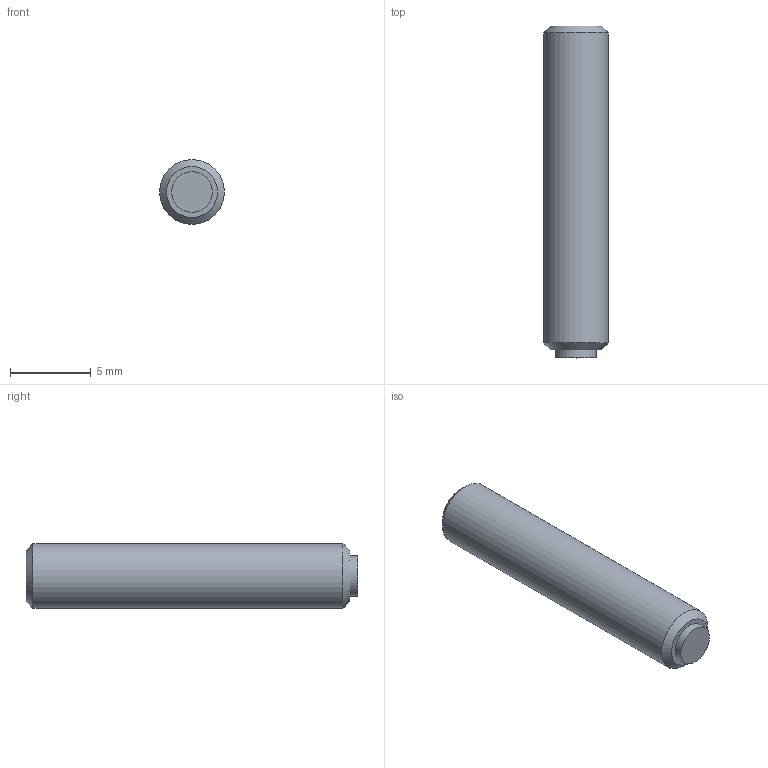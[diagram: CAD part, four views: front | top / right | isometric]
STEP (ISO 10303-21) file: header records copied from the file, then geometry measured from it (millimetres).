
FILE_DESCRIPTION( ( 'STEP AP203' ), '1' );
FILE_NAME( 'C:/Temp/Ganter_Step_05_03_2020/data/3_2/gn913_3/Grub screw GN 913.3-M4-20-MS.stp', '2020-03-13T05:35:45', ( 'License CC BY-ND 4.0' ), ( 'CADENAS' ), ' ', 'PARTsolutions', ' ' );
FILE_SCHEMA( ( 'CONFIG_CONTROL_DESIGN' ) );
Length unit declared in the file: millimetre
Products named in the file (1): _Grub screw GN 913.3-M4-20-MS
Bounding box: 4 x 20.5 x 4 mm (x, y, z)
Volume: 243 mm3; surface area: 290.9 mm2
Topology: 1 solids, 1 shells, 14 faces, 28 edges, 18 vertices
Faces by surface type: plane 10, cylinder 2, cone 2
Full cylindrical faces by diameter (mm): 2.5 x1, 4 x1
Entity records: 386 total; most frequent: DIRECTION 60, CARTESIAN_POINT 57, ORIENTED_EDGE 48, EDGE_CURVE 24, AXIS2_PLACEMENT_3D 21, EDGE_LOOP 20, VERTEX_POINT 18, LINE 18
